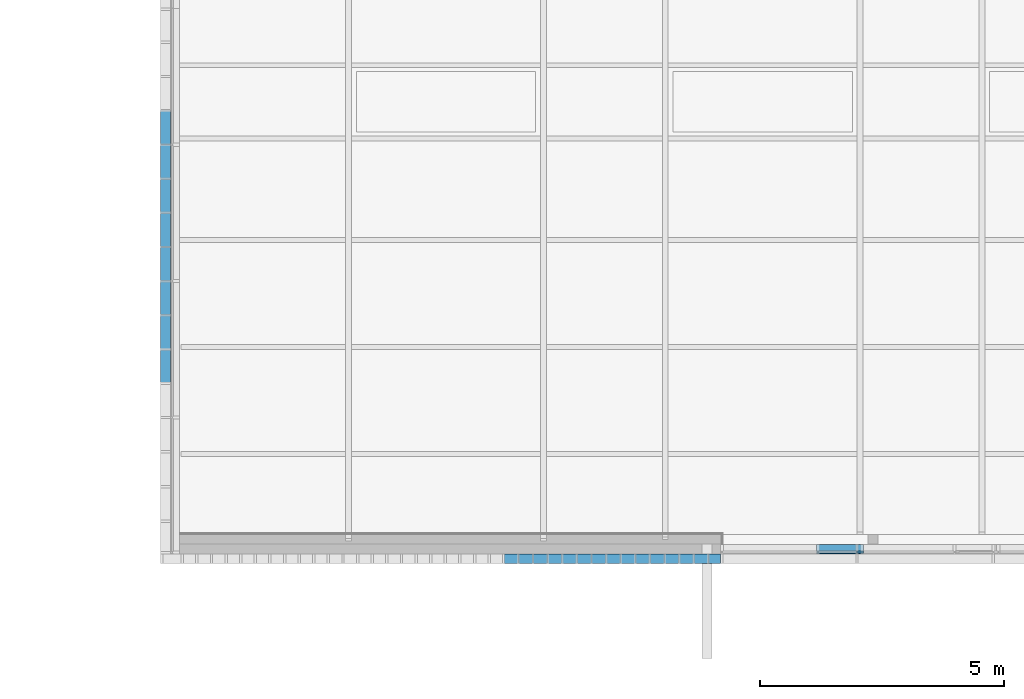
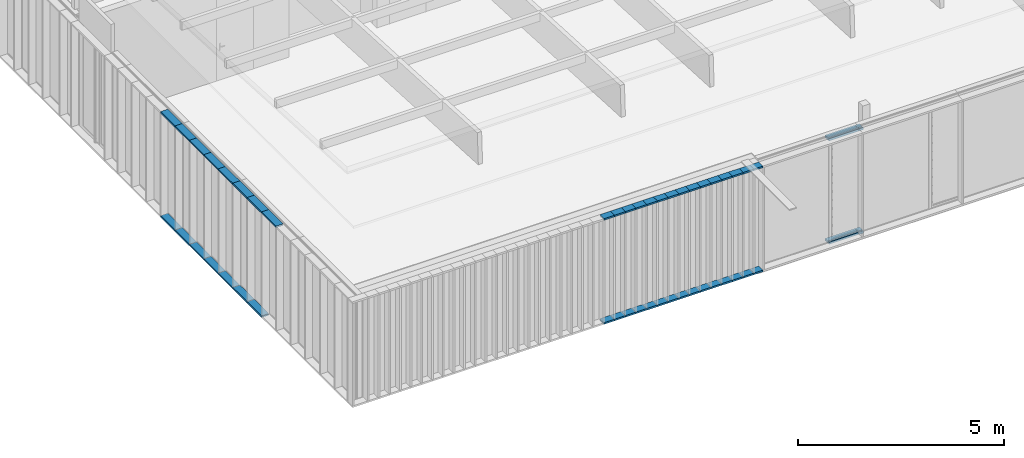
# One storey, part 32 of 240: 49 members, 3 elements without a shape of their own.
"""IFC2X3 building model written with IfcOpenShell, lengths in centimetres."""

from ifc_helpers import new_model, entity, si_unit, converted_unit, derived_unit, direction, frame, origin, origin_2d_with_axis, place, context, subcontext, project, spatial, polyline, rectangle, outline, extrude, source, transform, mapped, material, type_object, type_shapes, element, aggregate, save


model = new_model("IFC2X3")

# Units and contexts
model_context = context("Model", 3, precision=0.001, world=origin(), true_north=direction((6.12303176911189e-17, 1.0)))
body_context = subcontext(model_context, "Body", "Model", "MODEL_VIEW")
ifc_project = project(units=[si_unit("LENGTHUNIT", "METRE", prefix="CENTI"), si_unit("AREAUNIT", "SQUARE_METRE"), si_unit("VOLUMEUNIT", "CUBIC_METRE"), converted_unit("PLANEANGLEUNIT", "DEGREE", entity("IfcRatioMeasure", 0.0174532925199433), si_unit("PLANEANGLEUNIT", "RADIAN"), dimensions=[0, 0, 0, 0, 0, 0, 0]), si_unit("MASSUNIT", "GRAM", prefix="KILO"), derived_unit("MASSDENSITYUNIT", [(si_unit("MASSUNIT", "GRAM", prefix="KILO"), 1), (si_unit("LENGTHUNIT", "METRE"), -3)]), si_unit("TIMEUNIT", "SECOND"), si_unit("FREQUENCYUNIT", "HERTZ"), si_unit("THERMODYNAMICTEMPERATUREUNIT", "DEGREE_CELSIUS"), derived_unit("THERMALTRANSMITTANCEUNIT", [(si_unit("MASSUNIT", "GRAM", prefix="KILO"), 1), (si_unit("THERMODYNAMICTEMPERATUREUNIT", "KELVIN"), -1), (si_unit("TIMEUNIT", "SECOND"), -3)]), derived_unit("VOLUMETRICFLOWRATEUNIT", [(si_unit("LENGTHUNIT", "METRE"), 3), (si_unit("TIMEUNIT", "SECOND"), -1)]), si_unit("ELECTRICCURRENTUNIT", "AMPERE"), si_unit("ELECTRICVOLTAGEUNIT", "VOLT"), si_unit("POWERUNIT", "WATT"), si_unit("FORCEUNIT", "NEWTON", prefix="KILO"), si_unit("ILLUMINANCEUNIT", "LUX"), si_unit("LUMINOUSFLUXUNIT", "LUMEN"), si_unit("LUMINOUSINTENSITYUNIT", "CANDELA"), derived_unit("USERDEFINED", [(si_unit("MASSUNIT", "GRAM", prefix="KILO"), -1), (si_unit("LENGTHUNIT", "METRE"), -2), (si_unit("TIMEUNIT", "SECOND"), 3), (si_unit("LUMINOUSFLUXUNIT", "LUMEN"), 1)]), derived_unit("LINEARVELOCITYUNIT", [(si_unit("LENGTHUNIT", "METRE"), 1), (si_unit("TIMEUNIT", "SECOND"), -1)]), si_unit("PRESSUREUNIT", "PASCAL"), derived_unit("USERDEFINED", [(si_unit("LENGTHUNIT", "METRE"), -2), (si_unit("MASSUNIT", "GRAM", prefix="KILO"), 1), (si_unit("TIMEUNIT", "SECOND"), -2)])], contexts=[model_context])

# Site, building, storey
site_placement = place(None, frame((-2781.94577612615, 7442.24238424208, 0.0)))
site = spatial("IfcSite", under=ifc_project, at=site_placement, Name="Default", CompositionType="ELEMENT")
building_placement = place(site_placement, origin())
building = spatial("IfcBuilding", under=site, at=building_placement, CompositionType="ELEMENT")
storey_placement = place(building_placement, origin())
storey = spatial("IfcBuildingStorey", under=building, at=storey_placement, Name="N00 - COO", CompositionType="ELEMENT", Elevation=0.0)

# Curtain wall, members
curtain_wall_type_1 = type_object("IfcCurtainWallType", Name="Mur-rideau:Epines - 200x50mm", PredefinedType="NOTDEFINED")
curtain_wall_1_placement = place(building_placement, origin())
curtain_wall_1 = element("IfcCurtainWall", 1, at=curtain_wall_1_placement, inside=storey, type_object=curtain_wall_type_1, Name="Mur-rideau:Epines - 200x50mm", ObjectType="Mur-rideau:Epines - 200x50mm")
ifc_material = material(Name="Aluminium")
member_type_1 = type_object("IfcMemberType", Name="200x50 mm", PredefinedType="MEMBER")
shared_shape_1 = source(origin(), body_context, "Body", "SweptSolid", [
    extrude(rectangle(XDim=20.0, YDim=5.0, at=origin_2d_with_axis()), frame((-2.5, 0.0, -70.0), z_axis=(0.0, 0.0, 1.0), x_axis=(0.0, -1.0, 0.0)), (0.0, 0.0, 1.0), 70.0000000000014),
])
type_shapes(member_type_1, [shared_shape_1])
member_1_placement = place(building_placement, frame((-11874.3505746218, -5146.5017343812, 313.0), z_axis=(0.0, 1.0, 0.0), x_axis=(0.0, 0.0, 1.0)))
member_1 = element("IfcMember", 2, at=member_1_placement, type_object=member_type_1, material=ifc_material, Name="Meneau rectangulaire:200x50 mm", ObjectType="Meneau rectangulaire:200x50 mm", context=body_context, shape_type="MappedRepresentation", body=[
    mapped(shared_shape_1, transform((0.0, 0.0, 0.0), scale=1.0)),
])
member_2_placement = place(building_placement, frame((-11874.3505746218, -5076.5017343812, 313.0), z_axis=(0.0, 1.0, 0.0), x_axis=(0.0, 0.0, 1.0)))
member_2 = element("IfcMember", 3, at=member_2_placement, type_object=member_type_1, material=ifc_material, Name="Meneau rectangulaire:200x50 mm", ObjectType="Meneau rectangulaire:200x50 mm", context=body_context, shape_type="MappedRepresentation", body=[
    mapped(shared_shape_1, transform((0.0, 0.0, 0.0), scale=1.0)),
])
member_3_placement = place(building_placement, frame((-11874.3505746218, -5006.5017343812, 313.0), z_axis=(0.0, 1.0, 0.0), x_axis=(0.0, 0.0, 1.0)))
member_3 = element("IfcMember", 4, at=member_3_placement, type_object=member_type_1, material=ifc_material, Name="Meneau rectangulaire:200x50 mm", ObjectType="Meneau rectangulaire:200x50 mm", context=body_context, shape_type="MappedRepresentation", body=[
    mapped(shared_shape_1, transform((0.0, 0.0, 0.0), scale=1.0)),
])
member_4_placement = place(building_placement, frame((-11874.3505746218, -4936.5017343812, 313.0), z_axis=(0.0, 1.0, 0.0), x_axis=(0.0, 0.0, 1.0)))
member_4 = element("IfcMember", 5, at=member_4_placement, type_object=member_type_1, material=ifc_material, Name="Meneau rectangulaire:200x50 mm", ObjectType="Meneau rectangulaire:200x50 mm", context=body_context, shape_type="MappedRepresentation", body=[
    mapped(shared_shape_1, transform((0.0, 0.0, 0.0), scale=1.0)),
])
member_5_placement = place(building_placement, frame((-11874.3505746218, -4866.5017343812, 313.0), z_axis=(0.0, 1.0, 0.0), x_axis=(0.0, 0.0, 1.0)))
member_5 = element("IfcMember", 6, at=member_5_placement, type_object=member_type_1, material=ifc_material, Name="Meneau rectangulaire:200x50 mm", ObjectType="Meneau rectangulaire:200x50 mm", context=body_context, shape_type="MappedRepresentation", body=[
    mapped(shared_shape_1, transform((0.0, 0.0, 0.0), scale=1.0)),
])
member_6_placement = place(building_placement, frame((-11874.3505746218, -4796.5017343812, 313.0), z_axis=(0.0, 1.0, 0.0), x_axis=(0.0, 0.0, 1.0)))
member_6 = element("IfcMember", 7, at=member_6_placement, type_object=member_type_1, material=ifc_material, Name="Meneau rectangulaire:200x50 mm", ObjectType="Meneau rectangulaire:200x50 mm", context=body_context, shape_type="MappedRepresentation", body=[
    mapped(shared_shape_1, transform((0.0, 0.0, 0.0), scale=1.0)),
])
member_7_placement = place(building_placement, frame((-11874.3505746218, -4726.5017343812, 313.0), z_axis=(0.0, 1.0, 0.0), x_axis=(0.0, 0.0, 1.0)))
member_7 = element("IfcMember", 8, at=member_7_placement, type_object=member_type_1, material=ifc_material, Name="Meneau rectangulaire:200x50 mm", ObjectType="Meneau rectangulaire:200x50 mm", context=body_context, shape_type="MappedRepresentation", body=[
    mapped(shared_shape_1, transform((0.0, 0.0, 0.0), scale=1.0)),
])
member_8_placement = place(building_placement, frame((-11874.3505746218, -4656.50173438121, 313.0), z_axis=(0.0, 1.0, 0.0), x_axis=(0.0, 0.0, 1.0)))
member_8 = element("IfcMember", 9, at=member_8_placement, type_object=member_type_1, material=ifc_material, Name="Meneau rectangulaire:200x50 mm", ObjectType="Meneau rectangulaire:200x50 mm", context=body_context, shape_type="MappedRepresentation", body=[
    mapped(shared_shape_1, transform((0.0, 0.0, 0.0), scale=1.0)),
])

curtain_wall_2_placement = place(building_placement, origin())
curtain_wall_2 = element("IfcCurtainWall", 10, at=curtain_wall_2_placement, inside=storey, type_object=curtain_wall_type_1, Name="Mur-rideau:Epines - 200x50mm", ObjectType="Mur-rideau:Epines - 200x50mm")
member_type_2 = type_object("IfcMemberType", Name="200x50 mm", PredefinedType="MEMBER")
shared_shape_2 = source(origin(), body_context, "Body", "SweptSolid", [
    extrude(rectangle(XDim=20.0, YDim=5.0, at=origin_2d_with_axis()), frame((-2.5, 0.0, -25.0), z_axis=(0.0, 0.0, 1.0), x_axis=(0.0, -1.0, 0.0)), (0.0, 0.0, 1.0), 24.9999999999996),
])
type_shapes(member_type_2, [shared_shape_2])
member_9_placement = place(building_placement, frame((-10734.8167461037, -5576.50173441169, 313.0), z_axis=(1.0, 0.0, 0.0), x_axis=(0.0, 0.0, 1.0)))
member_9 = element("IfcMember", 11, at=member_9_placement, type_object=member_type_2, material=ifc_material, Name="Meneau rectangulaire:200x50 mm", ObjectType="Meneau rectangulaire:200x50 mm", context=body_context, shape_type="MappedRepresentation", body=[
    mapped(shared_shape_2, transform((0.0, 0.0, 0.0), scale=1.0)),
])
member_type_3 = type_object("IfcMemberType", Name="200x50 mm", PredefinedType="MEMBER")
shared_shape_3 = source(origin(), body_context, "Body", "SweptSolid", [
    extrude(rectangle(XDim=20.0, YDim=5.0, at=origin_2d_with_axis()), frame((-2.5, 0.0, -30.0), z_axis=(0.0, 0.0, 1.0), x_axis=(0.0, -1.0, 0.0)), (0.0, 0.0, 1.0), 30.0000000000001),
])
type_shapes(member_type_3, [shared_shape_3])
member_10_placement = place(building_placement, frame((-11149.8167461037, -5576.50173441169, 313.0), z_axis=(1.0, 0.0, 0.0), x_axis=(0.0, 0.0, 1.0)))
member_10 = element("IfcMember", 12, at=member_10_placement, type_object=member_type_3, material=ifc_material, Name="Meneau rectangulaire:200x50 mm", ObjectType="Meneau rectangulaire:200x50 mm", context=body_context, shape_type="MappedRepresentation", body=[
    mapped(shared_shape_3, transform((0.0, 0.0, 0.0), scale=1.0)),
])
member_11_placement = place(building_placement, frame((-11119.8167461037, -5576.50173441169, 313.0), z_axis=(1.0, 0.0, 0.0), x_axis=(0.0, 0.0, 1.0)))
member_11 = element("IfcMember", 13, at=member_11_placement, type_object=member_type_3, material=ifc_material, Name="Meneau rectangulaire:200x50 mm", ObjectType="Meneau rectangulaire:200x50 mm", context=body_context, shape_type="MappedRepresentation", body=[
    mapped(shared_shape_3, transform((0.0, 0.0, 0.0), scale=1.0)),
])
member_12_placement = place(building_placement, frame((-11089.8167461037, -5576.50173441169, 313.0), z_axis=(1.0, 0.0, 0.0), x_axis=(0.0, 0.0, 1.0)))
member_12 = element("IfcMember", 14, at=member_12_placement, type_object=member_type_3, material=ifc_material, Name="Meneau rectangulaire:200x50 mm", ObjectType="Meneau rectangulaire:200x50 mm", context=body_context, shape_type="MappedRepresentation", body=[
    mapped(shared_shape_3, transform((0.0, 0.0, 0.0), scale=1.0)),
])
member_13_placement = place(building_placement, frame((-11059.8167461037, -5576.50173441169, 313.0), z_axis=(1.0, 0.0, 0.0), x_axis=(0.0, 0.0, 1.0)))
member_13 = element("IfcMember", 15, at=member_13_placement, type_object=member_type_3, material=ifc_material, Name="Meneau rectangulaire:200x50 mm", ObjectType="Meneau rectangulaire:200x50 mm", context=body_context, shape_type="MappedRepresentation", body=[
    mapped(shared_shape_3, transform((0.0, 0.0, 0.0), scale=1.0)),
])
member_14_placement = place(building_placement, frame((-11029.8167461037, -5576.50173441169, 313.0), z_axis=(1.0, 0.0, 0.0), x_axis=(0.0, 0.0, 1.0)))
member_14 = element("IfcMember", 16, at=member_14_placement, type_object=member_type_3, material=ifc_material, Name="Meneau rectangulaire:200x50 mm", ObjectType="Meneau rectangulaire:200x50 mm", context=body_context, shape_type="MappedRepresentation", body=[
    mapped(shared_shape_3, transform((0.0, 0.0, 0.0), scale=1.0)),
])
member_15_placement = place(building_placement, frame((-10999.8167461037, -5576.50173441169, 313.0), z_axis=(1.0, 0.0, 0.0), x_axis=(0.0, 0.0, 1.0)))
member_15 = element("IfcMember", 17, at=member_15_placement, type_object=member_type_3, material=ifc_material, Name="Meneau rectangulaire:200x50 mm", ObjectType="Meneau rectangulaire:200x50 mm", context=body_context, shape_type="MappedRepresentation", body=[
    mapped(shared_shape_3, transform((0.0, 0.0, 0.0), scale=1.0)),
])
member_16_placement = place(building_placement, frame((-10969.8167461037, -5576.50173441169, 313.0), z_axis=(1.0, 0.0, 0.0), x_axis=(0.0, 0.0, 1.0)))
member_16 = element("IfcMember", 18, at=member_16_placement, type_object=member_type_3, material=ifc_material, Name="Meneau rectangulaire:200x50 mm", ObjectType="Meneau rectangulaire:200x50 mm", context=body_context, shape_type="MappedRepresentation", body=[
    mapped(shared_shape_3, transform((0.0, 0.0, 0.0), scale=1.0)),
])
member_17_placement = place(building_placement, frame((-10939.8167461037, -5576.50173441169, 313.0), z_axis=(1.0, 0.0, 0.0), x_axis=(0.0, 0.0, 1.0)))
member_17 = element("IfcMember", 19, at=member_17_placement, type_object=member_type_3, material=ifc_material, Name="Meneau rectangulaire:200x50 mm", ObjectType="Meneau rectangulaire:200x50 mm", context=body_context, shape_type="MappedRepresentation", body=[
    mapped(shared_shape_3, transform((0.0, 0.0, 0.0), scale=1.0)),
])
member_18_placement = place(building_placement, frame((-10909.8167461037, -5576.50173441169, 313.0), z_axis=(1.0, 0.0, 0.0), x_axis=(0.0, 0.0, 1.0)))
member_18 = element("IfcMember", 20, at=member_18_placement, type_object=member_type_3, material=ifc_material, Name="Meneau rectangulaire:200x50 mm", ObjectType="Meneau rectangulaire:200x50 mm", context=body_context, shape_type="MappedRepresentation", body=[
    mapped(shared_shape_3, transform((0.0, 0.0, 0.0), scale=1.0)),
])
member_19_placement = place(building_placement, frame((-10879.8167461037, -5576.50173441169, 313.0), z_axis=(1.0, 0.0, 0.0), x_axis=(0.0, 0.0, 1.0)))
member_19 = element("IfcMember", 21, at=member_19_placement, type_object=member_type_3, material=ifc_material, Name="Meneau rectangulaire:200x50 mm", ObjectType="Meneau rectangulaire:200x50 mm", context=body_context, shape_type="MappedRepresentation", body=[
    mapped(shared_shape_3, transform((0.0, 0.0, 0.0), scale=1.0)),
])
member_20_placement = place(building_placement, frame((-10849.8167461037, -5576.50173441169, 313.0), z_axis=(1.0, 0.0, 0.0), x_axis=(0.0, 0.0, 1.0)))
member_20 = element("IfcMember", 22, at=member_20_placement, type_object=member_type_3, material=ifc_material, Name="Meneau rectangulaire:200x50 mm", ObjectType="Meneau rectangulaire:200x50 mm", context=body_context, shape_type="MappedRepresentation", body=[
    mapped(shared_shape_3, transform((0.0, 0.0, 0.0), scale=1.0)),
])
member_21_placement = place(building_placement, frame((-10819.8167461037, -5576.50173441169, 313.0), z_axis=(1.0, 0.0, 0.0), x_axis=(0.0, 0.0, 1.0)))
member_21 = element("IfcMember", 23, at=member_21_placement, type_object=member_type_3, material=ifc_material, Name="Meneau rectangulaire:200x50 mm", ObjectType="Meneau rectangulaire:200x50 mm", context=body_context, shape_type="MappedRepresentation", body=[
    mapped(shared_shape_3, transform((0.0, 0.0, 0.0), scale=1.0)),
])
member_22_placement = place(building_placement, frame((-10789.8167461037, -5576.50173441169, 313.0), z_axis=(1.0, 0.0, 0.0), x_axis=(0.0, 0.0, 1.0)))
member_22 = element("IfcMember", 24, at=member_22_placement, type_object=member_type_3, material=ifc_material, Name="Meneau rectangulaire:200x50 mm", ObjectType="Meneau rectangulaire:200x50 mm", context=body_context, shape_type="MappedRepresentation", body=[
    mapped(shared_shape_3, transform((0.0, 0.0, 0.0), scale=1.0)),
])
member_23_placement = place(building_placement, frame((-10759.8167461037, -5576.50173441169, 313.0), z_axis=(1.0, 0.0, 0.0), x_axis=(0.0, 0.0, 1.0)))
member_23 = element("IfcMember", 25, at=member_23_placement, type_object=member_type_3, material=ifc_material, Name="Meneau rectangulaire:200x50 mm", ObjectType="Meneau rectangulaire:200x50 mm", context=body_context, shape_type="MappedRepresentation", body=[
    mapped(shared_shape_3, transform((0.0, 0.0, 0.0), scale=1.0)),
])
member_type_4 = type_object("IfcMemberType", Name="200x50 mm", PredefinedType="MEMBER")
shared_shape_4 = source(origin(), body_context, "Body", "SweptSolid", [
    extrude(rectangle(XDim=20.0, YDim=5.0, at=origin_2d_with_axis()), frame((-2.5, 0.0, -30.0), z_axis=(0.0, 0.0, 1.0), x_axis=(0.0, -1.0, 0.0)), (0.0, 0.0, 1.0), 30.0000000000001),
])
type_shapes(member_type_4, [shared_shape_4])
member_24_placement = place(building_placement, frame((-11179.8167461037, -5576.50173441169, 0.0), z_axis=(-1.0, 0.0, 0.0), x_axis=(0.0, 0.0, -1.0)))
member_24 = element("IfcMember", 26, at=member_24_placement, type_object=member_type_4, material=ifc_material, Name="Meneau rectangulaire:200x50 mm", ObjectType="Meneau rectangulaire:200x50 mm", context=body_context, shape_type="MappedRepresentation", body=[
    mapped(shared_shape_4, transform((0.0, 0.0, 0.0), scale=1.0)),
])
member_25_placement = place(building_placement, frame((-11149.8167461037, -5576.50173441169, 0.0), z_axis=(-1.0, 0.0, 0.0), x_axis=(0.0, 0.0, -1.0)))
member_25 = element("IfcMember", 27, at=member_25_placement, type_object=member_type_4, material=ifc_material, Name="Meneau rectangulaire:200x50 mm", ObjectType="Meneau rectangulaire:200x50 mm", context=body_context, shape_type="MappedRepresentation", body=[
    mapped(shared_shape_4, transform((0.0, 0.0, 0.0), scale=1.0)),
])
member_26_placement = place(building_placement, frame((-11119.8167461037, -5576.50173441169, 0.0), z_axis=(-1.0, 0.0, 0.0), x_axis=(0.0, 0.0, -1.0)))
member_26 = element("IfcMember", 28, at=member_26_placement, type_object=member_type_4, material=ifc_material, Name="Meneau rectangulaire:200x50 mm", ObjectType="Meneau rectangulaire:200x50 mm", context=body_context, shape_type="MappedRepresentation", body=[
    mapped(shared_shape_4, transform((0.0, 0.0, 0.0), scale=1.0)),
])
member_27_placement = place(building_placement, frame((-11089.8167461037, -5576.50173441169, 0.0), z_axis=(-1.0, 0.0, 0.0), x_axis=(0.0, 0.0, -1.0)))
member_27 = element("IfcMember", 29, at=member_27_placement, type_object=member_type_4, material=ifc_material, Name="Meneau rectangulaire:200x50 mm", ObjectType="Meneau rectangulaire:200x50 mm", context=body_context, shape_type="MappedRepresentation", body=[
    mapped(shared_shape_4, transform((0.0, 0.0, 0.0), scale=1.0)),
])
member_28_placement = place(building_placement, frame((-11059.8167461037, -5576.50173441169, 0.0), z_axis=(-1.0, 0.0, 0.0), x_axis=(0.0, 0.0, -1.0)))
member_28 = element("IfcMember", 30, at=member_28_placement, type_object=member_type_4, material=ifc_material, Name="Meneau rectangulaire:200x50 mm", ObjectType="Meneau rectangulaire:200x50 mm", context=body_context, shape_type="MappedRepresentation", body=[
    mapped(shared_shape_4, transform((0.0, 0.0, 0.0), scale=1.0)),
])
member_29_placement = place(building_placement, frame((-11029.8167461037, -5576.50173441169, 0.0), z_axis=(-1.0, 0.0, 0.0), x_axis=(0.0, 0.0, -1.0)))
member_29 = element("IfcMember", 31, at=member_29_placement, type_object=member_type_4, material=ifc_material, Name="Meneau rectangulaire:200x50 mm", ObjectType="Meneau rectangulaire:200x50 mm", context=body_context, shape_type="MappedRepresentation", body=[
    mapped(shared_shape_4, transform((0.0, 0.0, 0.0), scale=1.0)),
])
member_30_placement = place(building_placement, frame((-10999.8167461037, -5576.50173441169, 0.0), z_axis=(-1.0, 0.0, 0.0), x_axis=(0.0, 0.0, -1.0)))
member_30 = element("IfcMember", 32, at=member_30_placement, type_object=member_type_4, material=ifc_material, Name="Meneau rectangulaire:200x50 mm", ObjectType="Meneau rectangulaire:200x50 mm", context=body_context, shape_type="MappedRepresentation", body=[
    mapped(shared_shape_4, transform((0.0, 0.0, 0.0), scale=1.0)),
])
member_31_placement = place(building_placement, frame((-10969.8167461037, -5576.50173441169, 0.0), z_axis=(-1.0, 0.0, 0.0), x_axis=(0.0, 0.0, -1.0)))
member_31 = element("IfcMember", 33, at=member_31_placement, type_object=member_type_4, material=ifc_material, Name="Meneau rectangulaire:200x50 mm", ObjectType="Meneau rectangulaire:200x50 mm", context=body_context, shape_type="MappedRepresentation", body=[
    mapped(shared_shape_4, transform((0.0, 0.0, 0.0), scale=1.0)),
])
member_32_placement = place(building_placement, frame((-10939.8167461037, -5576.50173441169, 0.0), z_axis=(-1.0, 0.0, 0.0), x_axis=(0.0, 0.0, -1.0)))
member_32 = element("IfcMember", 34, at=member_32_placement, type_object=member_type_4, material=ifc_material, Name="Meneau rectangulaire:200x50 mm", ObjectType="Meneau rectangulaire:200x50 mm", context=body_context, shape_type="MappedRepresentation", body=[
    mapped(shared_shape_4, transform((0.0, 0.0, 0.0), scale=1.0)),
])
member_33_placement = place(building_placement, frame((-10909.8167461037, -5576.50173441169, 0.0), z_axis=(-1.0, 0.0, 0.0), x_axis=(0.0, 0.0, -1.0)))
member_33 = element("IfcMember", 35, at=member_33_placement, type_object=member_type_4, material=ifc_material, Name="Meneau rectangulaire:200x50 mm", ObjectType="Meneau rectangulaire:200x50 mm", context=body_context, shape_type="MappedRepresentation", body=[
    mapped(shared_shape_4, transform((0.0, 0.0, 0.0), scale=1.0)),
])
member_34_placement = place(building_placement, frame((-10879.8167461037, -5576.50173441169, 0.0), z_axis=(-1.0, 0.0, 0.0), x_axis=(0.0, 0.0, -1.0)))
member_34 = element("IfcMember", 36, at=member_34_placement, type_object=member_type_4, material=ifc_material, Name="Meneau rectangulaire:200x50 mm", ObjectType="Meneau rectangulaire:200x50 mm", context=body_context, shape_type="MappedRepresentation", body=[
    mapped(shared_shape_4, transform((0.0, 0.0, 0.0), scale=1.0)),
])
member_35_placement = place(building_placement, frame((-10849.8167461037, -5576.50173441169, 0.0), z_axis=(-1.0, 0.0, 0.0), x_axis=(0.0, 0.0, -1.0)))
member_35 = element("IfcMember", 37, at=member_35_placement, type_object=member_type_4, material=ifc_material, Name="Meneau rectangulaire:200x50 mm", ObjectType="Meneau rectangulaire:200x50 mm", context=body_context, shape_type="MappedRepresentation", body=[
    mapped(shared_shape_4, transform((0.0, 0.0, 0.0), scale=1.0)),
])
member_36_placement = place(building_placement, frame((-10819.8167461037, -5576.50173441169, 0.0), z_axis=(-1.0, 0.0, 0.0), x_axis=(0.0, 0.0, -1.0)))
member_36 = element("IfcMember", 38, at=member_36_placement, type_object=member_type_4, material=ifc_material, Name="Meneau rectangulaire:200x50 mm", ObjectType="Meneau rectangulaire:200x50 mm", context=body_context, shape_type="MappedRepresentation", body=[
    mapped(shared_shape_4, transform((0.0, 0.0, 0.0), scale=1.0)),
])
member_37_placement = place(building_placement, frame((-10789.8167461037, -5576.50173441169, 0.0), z_axis=(-1.0, 0.0, 0.0), x_axis=(0.0, 0.0, -1.0)))
member_37 = element("IfcMember", 39, at=member_37_placement, type_object=member_type_4, material=ifc_material, Name="Meneau rectangulaire:200x50 mm", ObjectType="Meneau rectangulaire:200x50 mm", context=body_context, shape_type="MappedRepresentation", body=[
    mapped(shared_shape_4, transform((0.0, 0.0, 0.0), scale=1.0)),
])
member_type_5 = type_object("IfcMemberType", Name="200x50 mm", PredefinedType="MEMBER")
shared_shape_5 = source(origin(), body_context, "Body", "SweptSolid", [
    extrude(rectangle(XDim=20.0, YDim=5.0, at=origin_2d_with_axis()), frame((-2.5, 0.0, -25.0), z_axis=(0.0, 0.0, 1.0), x_axis=(0.0, -1.0, 0.0)), (0.0, 0.0, 1.0), 24.9999999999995),
])
type_shapes(member_type_5, [shared_shape_5])
member_38_placement = place(building_placement, frame((-10759.8167461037, -5576.50173441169, 0.0), z_axis=(-1.0, 0.0, 0.0), x_axis=(0.0, 0.0, -1.0)))
member_38 = element("IfcMember", 40, at=member_38_placement, type_object=member_type_5, material=ifc_material, Name="Meneau rectangulaire:200x50 mm", ObjectType="Meneau rectangulaire:200x50 mm", context=body_context, shape_type="MappedRepresentation", body=[
    mapped(shared_shape_5, transform((0.0, 0.0, 0.0), scale=1.0)),
])
aggregate(curtain_wall_2, [member_9, member_24, member_10, member_25, member_11, member_26, member_12, member_27, member_13, member_28, member_14, member_29, member_15, member_30, member_16, member_31, member_17, member_32, member_18, member_33, member_19, member_34, member_20, member_35, member_21, member_36, member_22, member_37, member_23, member_38])

curtain_wall_type_2 = type_object("IfcCurtainWallType", Name="Mur-rideau:07 - mur rideau trame 280 cm", PredefinedType="NOTDEFINED")
curtain_wall_3_placement = place(building_placement, origin())
curtain_wall_3 = element("IfcCurtainWall", 41, at=curtain_wall_3_placement, inside=storey, type_object=curtain_wall_type_2, Name="Mur-rideau:07 - mur rideau trame 280 cm", ObjectType="Mur-rideau:07 - mur rideau trame 280 cm")
member_type_6 = type_object("IfcMemberType", Name="150 x 25mm Détails", PredefinedType="MEMBER")
shared_shape_6 = source(origin(), body_context, "Body", "SweptSolid", [
    extrude(outline(polyline([(-5.6666666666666, -3.24999999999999), (-3.66666666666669, -3.24999999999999), (-3.66666666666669, -0.868749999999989), (-0.166666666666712, -0.868749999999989), (-0.166666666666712, -3.25000000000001), (13.3333333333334, -3.25000000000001), (13.3333333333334, 3.24999999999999), (-0.16666666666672, 3.24999999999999), (-0.16666666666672, 0.868749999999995), (-3.66666666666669, 0.868749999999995), (-3.66666666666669, 3.25), (-5.6666666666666, 3.25), (-5.6666666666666, -3.24999999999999)])), frame((-3.24999999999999, -1.96666666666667, -13.2499999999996), z_axis=(0.0, 0.0, 1.0), x_axis=(0.0, -1.0, 0.0)), (0.0, 0.0, 1.0), 13.2499999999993),
])
type_shapes(member_type_6, [shared_shape_6])
member_39_placement = place(building_placement, frame((-10441.5667461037, -5562.80173441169, 6.5), z_axis=(1.0, 0.0, 0.0), x_axis=(0.0, 0.0, 1.0)))
member_39 = element("IfcMember", 42, at=member_39_placement, type_object=member_type_6, material=ifc_material, Name="Meneau rectangulaire:150 x 25mm Détails", ObjectType="Meneau rectangulaire:150 x 25mm Détails", context=body_context, shape_type="MappedRepresentation", body=[
    mapped(shared_shape_6, transform((0.0, 0.0, 0.0), scale=1.0)),
])
member_type_7 = type_object("IfcMemberType", Name="150 x 25mm Détails", PredefinedType="MEMBER")
shared_shape_7 = source(origin(), body_context, "Body", "SweptSolid", [
    extrude(outline(polyline([(-5.6666666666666, -3.24999999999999), (-3.66666666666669, -3.24999999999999), (-3.66666666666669, -0.868749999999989), (-0.166666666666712, -0.868749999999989), (-0.166666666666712, -3.25000000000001), (13.3333333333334, -3.25000000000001), (13.3333333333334, 3.24999999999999), (-0.16666666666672, 3.24999999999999), (-0.16666666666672, 0.868749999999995), (-3.66666666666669, 0.868749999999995), (-3.66666666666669, 3.25), (-5.6666666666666, 3.25), (-5.6666666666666, -3.24999999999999)])), frame((-3.24999999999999, -1.96666666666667, -83.2500000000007), z_axis=(0.0, 0.0, 1.0), x_axis=(0.0, -1.0, 0.0)), (0.0, 0.0, 1.0), 83.2500000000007),
])
type_shapes(member_type_7, [shared_shape_7])
member_40_placement = place(building_placement, frame((-10454.8167461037, -5562.80173441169, 6.5), z_axis=(1.0, 0.0, 0.0), x_axis=(0.0, 0.0, 1.0)))
member_40 = element("IfcMember", 43, at=member_40_placement, type_object=member_type_7, material=ifc_material, Name="Meneau rectangulaire:150 x 25mm Détails", ObjectType="Meneau rectangulaire:150 x 25mm Détails", context=body_context, shape_type="MappedRepresentation", body=[
    mapped(shared_shape_7, transform((0.0, 0.0, 0.0), scale=1.0)),
])
member_type_8 = type_object("IfcMemberType", Name="150 x 25mm Détails", PredefinedType="MEMBER")
shared_shape_8 = source(origin(), body_context, "Body", "SweptSolid", [
    extrude(outline(polyline([(-5.66666666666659, -3.25), (-3.66666666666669, -3.25), (-3.66666666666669, -0.868749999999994), (-0.166666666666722, -0.868749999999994), (-0.166666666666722, -3.25000000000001), (13.3333333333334, -3.24999999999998), (13.3333333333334, 3.25000000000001), (-0.166666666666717, 3.25000000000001), (-0.166666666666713, 0.868749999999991), (-3.66666666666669, 0.868749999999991), (-3.66666666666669, 3.24999999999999), (-5.66666666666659, 3.24999999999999), (-5.66666666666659, -3.25)])), frame((-3.24999999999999, -1.96666666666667, -83.250000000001), z_axis=(0.0, 0.0, 1.0), x_axis=(0.0, -1.0, 0.0)), (0.0, 0.0, 1.0), 83.2500000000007),
])
type_shapes(member_type_8, [shared_shape_8])
member_41_placement = place(building_placement, frame((-10538.0667461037, -5562.80173441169, 306.0), z_axis=(-1.0, 0.0, 0.0), x_axis=(0.0, 0.0, -1.0)))
member_41 = element("IfcMember", 44, at=member_41_placement, type_object=member_type_8, material=ifc_material, Name="Meneau rectangulaire:150 x 25mm Détails", ObjectType="Meneau rectangulaire:150 x 25mm Détails", context=body_context, shape_type="MappedRepresentation", body=[
    mapped(shared_shape_8, transform((0.0, 0.0, 0.0), scale=1.0)),
])
member_type_9 = type_object("IfcMemberType", Name="150 x 25mm Détails", PredefinedType="MEMBER")
shared_shape_9 = source(origin(), body_context, "Body", "SweptSolid", [
    extrude(outline(polyline([(-5.66666666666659, -3.25), (-3.66666666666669, -3.25), (-3.66666666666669, -0.868749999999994), (-0.166666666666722, -0.868749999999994), (-0.166666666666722, -3.25000000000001), (13.3333333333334, -3.24999999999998), (13.3333333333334, 3.25000000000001), (-0.166666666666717, 3.25000000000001), (-0.166666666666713, 0.868749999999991), (-3.66666666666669, 0.868749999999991), (-3.66666666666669, 3.24999999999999), (-5.66666666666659, 3.24999999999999), (-5.66666666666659, -3.25)])), frame((-3.24999999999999, -1.96666666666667, -13.2499999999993), z_axis=(0.0, 0.0, 1.0), x_axis=(0.0, -1.0, 0.0)), (0.0, 0.0, 1.0), 13.2499999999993),
])
type_shapes(member_type_9, [shared_shape_9])
member_42_placement = place(building_placement, frame((-10454.8167461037, -5562.80173441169, 306.0), z_axis=(-1.0, 0.0, 0.0), x_axis=(0.0, 0.0, -1.0)))
member_42 = element("IfcMember", 45, at=member_42_placement, type_object=member_type_9, material=ifc_material, Name="Meneau rectangulaire:150 x 25mm Détails", ObjectType="Meneau rectangulaire:150 x 25mm Détails", context=body_context, shape_type="MappedRepresentation", body=[
    mapped(shared_shape_9, transform((0.0, 0.0, 0.0), scale=1.0)),
])
aggregate(curtain_wall_3, [member_39, member_40, member_41, member_42])

# Member
member_type_10 = type_object("IfcMemberType", Name="200x50 mm", PredefinedType="MEMBER")
shared_shape_10 = source(origin(), body_context, "Body", "SweptSolid", [
    extrude(rectangle(XDim=20.0, YDim=5.0, at=origin_2d_with_axis()), frame((-2.5, 0.0, -70.0), z_axis=(0.0, 0.0, 1.0), x_axis=(0.0, -1.0, 0.0)), (0.0, 0.0, 1.0), 69.9999999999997),
])
type_shapes(member_type_10, [shared_shape_10])
member_43_placement = place(building_placement, frame((-11874.3505746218, -5146.5017343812, 0.0), z_axis=(0.0, -1.0, 0.0), x_axis=(0.0, 0.0, -1.0)))
member_43 = element("IfcMember", 46, at=member_43_placement, type_object=member_type_10, material=ifc_material, Name="Meneau rectangulaire:200x50 mm", ObjectType="Meneau rectangulaire:200x50 mm", context=body_context, shape_type="MappedRepresentation", body=[
    mapped(shared_shape_10, transform((0.0, 0.0, 0.0), scale=1.0)),
])

member_44_placement = place(building_placement, frame((-11874.3505746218, -5076.5017343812, 0.0), z_axis=(0.0, -1.0, 0.0), x_axis=(0.0, 0.0, -1.0)))
member_44 = element("IfcMember", 47, at=member_44_placement, type_object=member_type_10, material=ifc_material, Name="Meneau rectangulaire:200x50 mm", ObjectType="Meneau rectangulaire:200x50 mm", context=body_context, shape_type="MappedRepresentation", body=[
    mapped(shared_shape_10, transform((0.0, 0.0, 0.0), scale=1.0)),
])

member_45_placement = place(building_placement, frame((-11874.3505746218, -5006.5017343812, 0.0), z_axis=(0.0, -1.0, 0.0), x_axis=(0.0, 0.0, -1.0)))
member_45 = element("IfcMember", 48, at=member_45_placement, type_object=member_type_10, material=ifc_material, Name="Meneau rectangulaire:200x50 mm", ObjectType="Meneau rectangulaire:200x50 mm", context=body_context, shape_type="MappedRepresentation", body=[
    mapped(shared_shape_10, transform((0.0, 0.0, 0.0), scale=1.0)),
])

member_46_placement = place(building_placement, frame((-11874.3505746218, -4936.5017343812, 0.0), z_axis=(0.0, -1.0, 0.0), x_axis=(0.0, 0.0, -1.0)))
member_46 = element("IfcMember", 49, at=member_46_placement, type_object=member_type_10, material=ifc_material, Name="Meneau rectangulaire:200x50 mm", ObjectType="Meneau rectangulaire:200x50 mm", context=body_context, shape_type="MappedRepresentation", body=[
    mapped(shared_shape_10, transform((0.0, 0.0, 0.0), scale=1.0)),
])

member_47_placement = place(building_placement, frame((-11874.3505746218, -4866.5017343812, 0.0), z_axis=(0.0, -1.0, 0.0), x_axis=(0.0, 0.0, -1.0)))
member_47 = element("IfcMember", 50, at=member_47_placement, type_object=member_type_10, material=ifc_material, Name="Meneau rectangulaire:200x50 mm", ObjectType="Meneau rectangulaire:200x50 mm", context=body_context, shape_type="MappedRepresentation", body=[
    mapped(shared_shape_10, transform((0.0, 0.0, 0.0), scale=1.0)),
])

member_48_placement = place(building_placement, frame((-11874.3505746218, -4796.5017343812, 0.0), z_axis=(0.0, -1.0, 0.0), x_axis=(0.0, 0.0, -1.0)))
member_48 = element("IfcMember", 51, at=member_48_placement, type_object=member_type_10, material=ifc_material, Name="Meneau rectangulaire:200x50 mm", ObjectType="Meneau rectangulaire:200x50 mm", context=body_context, shape_type="MappedRepresentation", body=[
    mapped(shared_shape_10, transform((0.0, 0.0, 0.0), scale=1.0)),
])

member_49_placement = place(building_placement, frame((-11874.3505746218, -4726.5017343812, 0.0), z_axis=(0.0, -1.0, 0.0), x_axis=(0.0, 0.0, -1.0)))
member_49 = element("IfcMember", 52, at=member_49_placement, type_object=member_type_10, material=ifc_material, Name="Meneau rectangulaire:200x50 mm", ObjectType="Meneau rectangulaire:200x50 mm", context=body_context, shape_type="MappedRepresentation", body=[
    mapped(shared_shape_10, transform((0.0, 0.0, 0.0), scale=1.0)),
])

aggregate(curtain_wall_1, [member_1, member_43, member_2, member_44, member_3, member_45, member_4, member_46, member_5, member_47, member_6, member_48, member_7, member_49, member_8])

save(model, "model.ifc")
